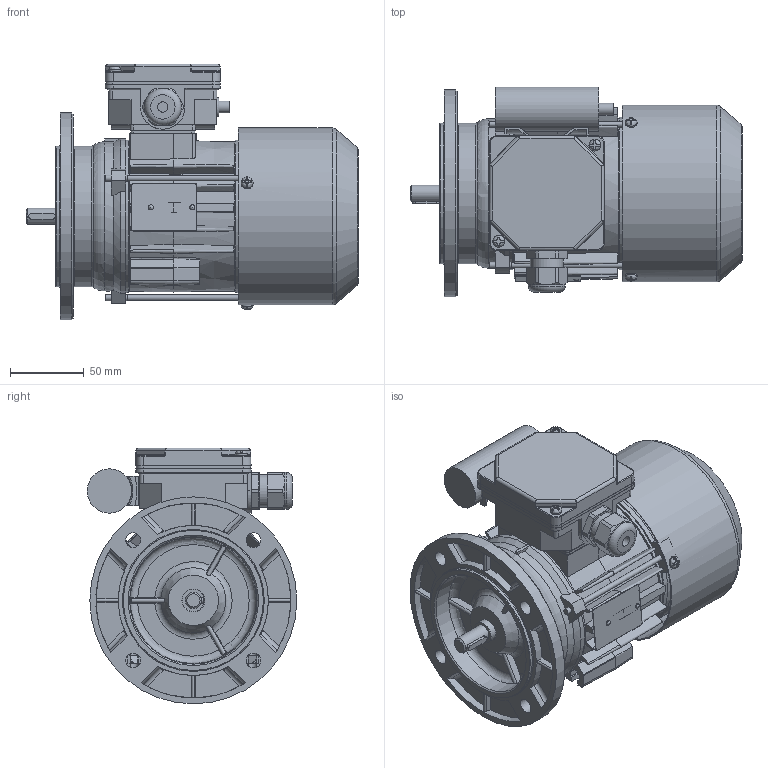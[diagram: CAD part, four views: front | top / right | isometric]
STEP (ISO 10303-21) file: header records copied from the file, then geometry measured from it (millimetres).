
FILE_DESCRIPTION( ( 'Unknown' ), '1' );
FILE_NAME( 'G:/Poczta Tk-1/STP/w.m.63/SEh63/SE(M)Kh63-C.stp', 'Unknown', ( 'K. Szlosek' ), ( 'BESEL S.A.' ), 'PSStep 17.0.49', 'Unknown', ' ' );
FILE_SCHEMA( ( 'AUTOMOTIVE_DESIGN { 1 0 10303 214 1 1 1 1 }' ) );
Length unit declared in the file: millimetre
Products named in the file (32): Assem1; K3-9973 Kadłub ze stojanem wykończonym Sh63-C; K3-5320 Tarcza łożyskowa P Sg63; K4-2320 Uszczelka nr 1 Sh71,80; Wpust A4x4x18; K3-5321 osłona przewietrznika Sg63; K4-2820 Uszczelka nr 2 Sh71,80; K2-0860 Pokrywka skrzynki zaciskowej; Wkręt samogwintujący M4x16; K4-0898 Tulejka uszczelniająca; Kondensator zb 8-10uF; K2-1769 Przewietrznik Sg63; Wkręt samogwintujący M4x8; K1-1110 Tarcza kołnierzowa nowa SKg63-..; K3-9974 wał Sh63-C standard; K3-9440 Podstawa  skrzynki zaciskowej SEhR71-D; K3-1974 Uchwyt kondensatora (mały); Dławnica M20x1,5; Łożysko 6202; Śruba ściągająca E_M4x100; Tabliczka znamionowa 32x44; Nitokołek A 2x6
Assembly tree (48 placements, depth 2):
  Assem1
    K3-9973 Kadłub ze stojanem wykończonym Sh63-C
    K3-5320 Tarcza łożyskowa P Sg63
    K4-2320 Uszczelka nr 1 Sh71,80
    Wpust A4x4x18
    K3-5321 osłona przewietrznika Sg63
    K4-2820 Uszczelka nr 2 Sh71,80
    K2-0860 Pokrywka skrzynki zaciskowej
    Wkręt samogwintujący M4x16  x2
    K4-0898 Tulejka uszczelniająca
    Kondensator zb 8-10uF
    K2-1769 Przewietrznik Sg63
    Wkręt samogwintujący M4x8  x3
    K1-1110 Tarcza kołnierzowa nowa SKg63-..
    K3-9974 wał Sh63-C standard
    K3-9440 Podstawa  skrzynki zaciskowej SEhR71-D
    K3-1974 Uchwyt kondensatora (mały)
    Dławnica M20x1,5
    Łożysko 6202  x2
    Łożysko 6202  x2
    Łożysko 6202  x2
    Łożysko 6202  x2
    Łożysko 6202  x2
    Łożysko 6202  x2
    Łożysko 6202  x2
    Łożysko 6202  x2
    Łożysko 6202  x2
    Łożysko 6202  x2
    Łożysko 6202  x2
    Śruba ściągająca E_M4x100  x3
    Tabliczka znamionowa 32x44
    Nitokołek A 2x6  x2
Bounding box: 224.5 x 141.82 x 173 mm (x, y, z)
Volume: 596217.2 mm3; surface area: 379119.5 mm2
Topology: 48 solids, 66 shells, 1906 faces, 5222 edges, 3394 vertices
Faces by surface type: plane 955, cylinder 570, cone 128, torus 116, bspline 98, sphere 39
Full cylindrical faces by diameter (mm): 2 x2, 2.4 x2, 3 x1, 3.3 x3, 3.5 x2, 3.7 x10, 4 x8, 4.5 x4, 4.6 x1, 4.8 x4, 5 x4, 6.5 x1, 7 x4, 8 x7, 10 x6, 11 x1, 12.9 x1, 13.1 x1, 13.5 x1, 15 x4, 15.4 x2, 18.38 x1, 18.5 x1, 19 x2, 19.5 x1, 20 x2, 20.1 x1, 21.52 x4, 22.3 x1, 25 x1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
Entity records: 80968 total; most frequent: CARTESIAN_POINT 25659, ORIENTED_EDGE 8978, DIRECTION 8698, EDGE_CURVE 4489, AXIS2_PLACEMENT_3D 3237, VERTEX_POINT 3067, LINE 2224, VECTOR 2224
